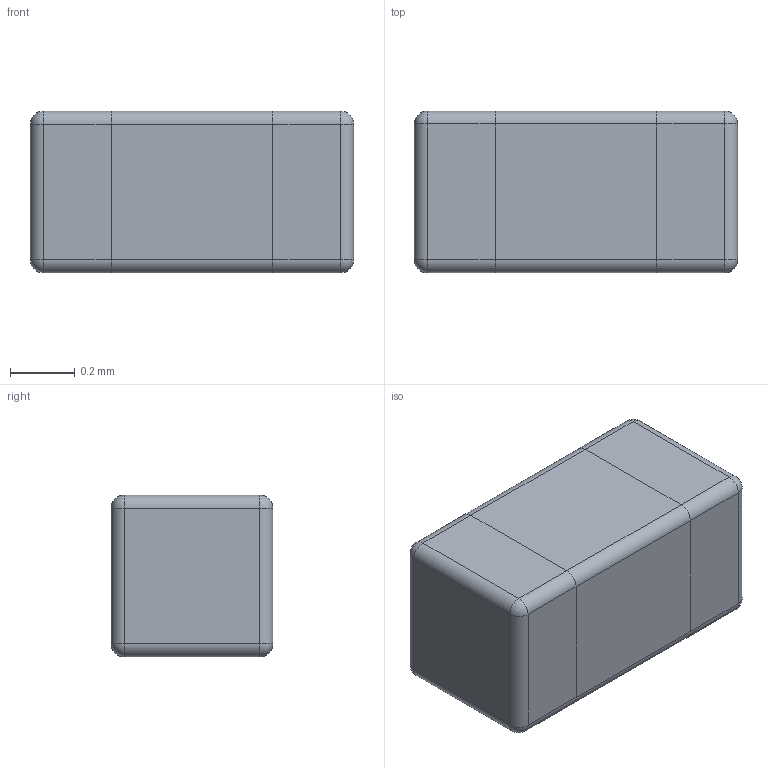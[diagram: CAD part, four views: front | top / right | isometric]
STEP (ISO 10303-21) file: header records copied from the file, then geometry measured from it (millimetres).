
FILE_DESCRIPTION(('FreeCAD Model'),'2;1');
FILE_NAME('Open CASCADE Shape Model','2022-02-08T10:48:43',(''),(''), 'Open CASCADE STEP processor 7.5','FreeCAD','Unknown');
FILE_SCHEMA(('AUTOMOTIVE_DESIGN { 1 0 10303 214 1 1 1 1 }'));
Length unit declared in the file: millimetre
Products named in the file (1): Fillet
Bounding box: 1 x 0.5 x 0.5 mm (x, y, z)
Volume: 0.2 mm3; surface area: 2.4 mm2
Topology: 1 solids, 1 shells, 42 faces, 88 edges, 40 vertices
Faces by surface type: cylinder 20, plane 14, sphere 8
Entity records: 2326 total; most frequent: CARTESIAN_POINT 371, DIRECTION 310, ORIENTED_EDGE 160, LINE 160, VECTOR 160, PCURVE 160, DEFINITIONAL_REPRESENTATION 160, EDGE_CURVE 80
